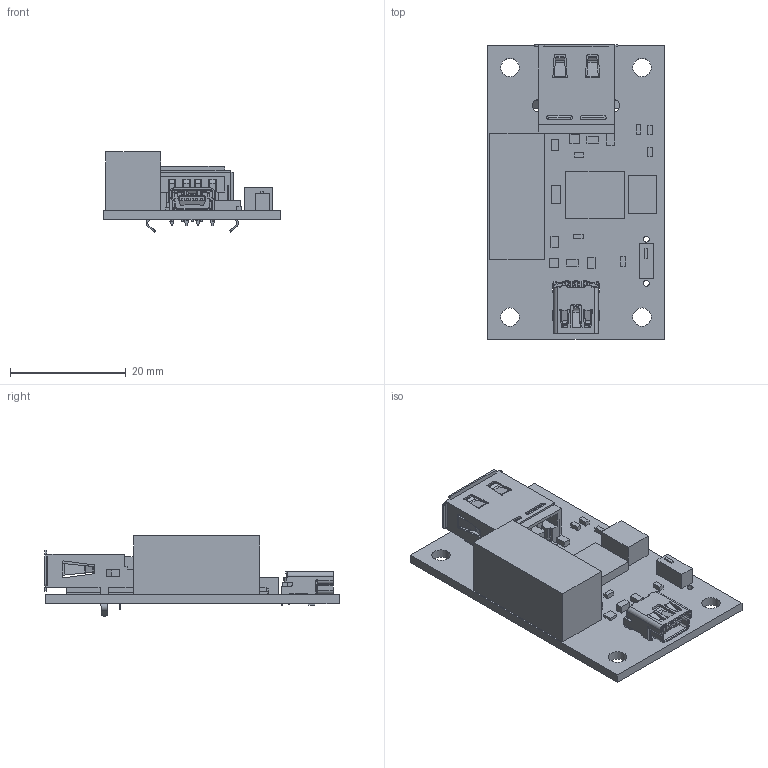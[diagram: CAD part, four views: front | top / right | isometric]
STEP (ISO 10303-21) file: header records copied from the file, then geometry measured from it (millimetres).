
FILE_DESCRIPTION(('Open CASCADE Model'),'2;1');
FILE_NAME('Open CASCADE Shape Model','2010-10-28T12:19:27',('Author'),( 'Open CASCADE'),'Open CASCADE STEP processor 6.2','Open CASCADE 6.2' ,'Unknown');
FILE_SCHEMA(('AUTOMOTIVE_DESIGN { 1 0 10303 214 1 1 1 1 }'));
Length unit declared in the file: millimetre
Products named in the file (53): PCB; Board; U2; 478799168; Extruded; L1; 510554080; C6; 478792128; C1; 510554592; C2; C3; 478789824; C4; C5; J1; 676430910; Open CASCADE STEP translator 6.2 205.10.1.1; Open CASCADE STEP translator 6.2 205.10.1.2; J2; 548190519; Open CASCADE STEP translator 6.2 205.11.1.1; Open CASCADE STEP translator 6.2 205.11.1.2; L2; R1; 478790848; R2; U1; 478788928; C7; 478802880; C8; 478788672; R3; R4; R5; S1; 478792000; 478795968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
Assembly tree (60 placements, depth 4):
  PCB
    Board
    U2
      478799168
        Extruded
    L1
      510554080
        Extruded
    C6
      478792128
        Extruded
    C1
      510554592
        Extruded
    C2
      510554592
        Extruded
    C3
      478789824
        Extruded
    C4
      478789824
        Extruded
    C5
      478792128
        Extruded
    J1
      676430910
        Open CASCADE STEP translator 6.2 205.10.1.1
        Open CASCADE STEP translator 6.2 205.10.1.2
    J2
      548190519
        Open CASCADE STEP translator 6.2 205.11.1.1
        Open CASCADE STEP translator 6.2 205.11.1.2
    L2
      510554080
        Extruded
    R1
      478790848
        Extruded
    R2
      478790848
        Extruded
    U1
      478788928
        Extruded
    C7
      478802880
        Extruded
    C8
      478788672
        Extruded
    R3
      478788672
        Extruded
    R4
      478788672
        Extruded
    R5
      478788672
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Bounding box: 30.48 x 50.9 x 13.9 mm (x, y, z)
Volume: 5579.2 mm3; surface area: 7809.6 mm2
Topology: 23 solids, 23 shells, 1096 faces, 3096 edges, 2046 vertices
Faces by surface type: plane 830, cylinder 218, bspline 40, cone 8
Full cylindrical faces by diameter (mm): 0.711 x4, 0.762 x3, 0.8 x5, 0.965 x4, 1 x2, 2.184 x2, 3.175 x4
Entity records: 82071 total; most frequent: CARTESIAN_POINT 23826, DIRECTION 10085, LINE 6929, VECTOR 6929, ORIENTED_EDGE 5898, PCURVE 5898, DEFINITIONAL_REPRESENTATION 5898, EDGE_CURVE 2949
